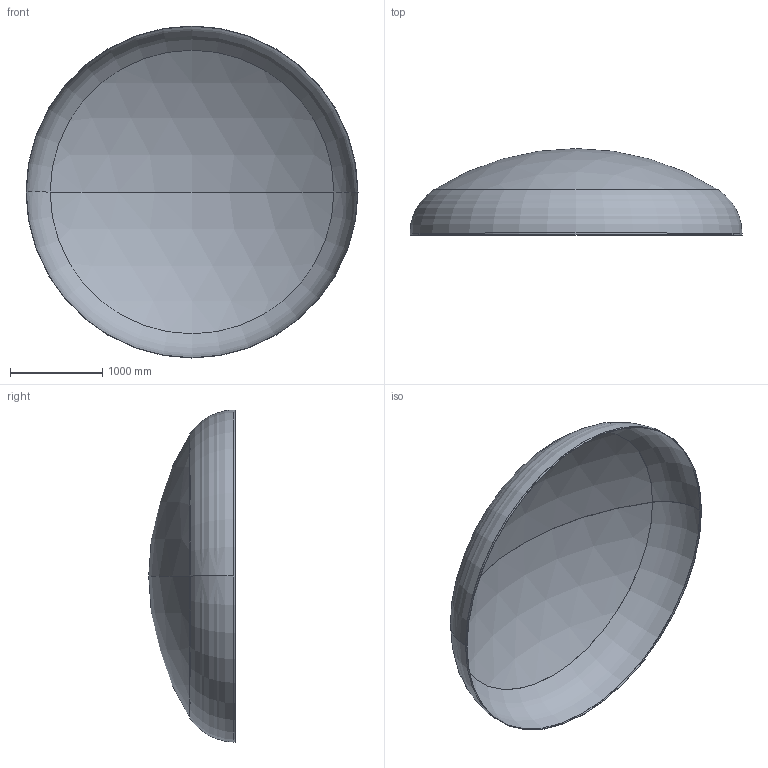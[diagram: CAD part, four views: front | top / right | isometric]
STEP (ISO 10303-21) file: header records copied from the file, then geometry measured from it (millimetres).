
FILE_DESCRIPTION (( 'STEP AP203' ), '1' );
FILE_NAME ('DIN 28013 Korbbogenform_-_Boden DIN 28013 - 3600 x 20 - I - s=3.step', '2016-07-01T19:59:49', ( '' ), ( '' ), 'SwSTEP 2.0', 'SolidWorks 2013', '' );
FILE_SCHEMA (( 'CONFIG_CONTROL_DESIGN' ));
Length unit declared in the file: millimetre
Products named in the file (1): DIN 28013 Korbbogenform_-_Boden DIN 28013 - 3600 x 20 - I - s=3
Bounding box: 3600 x 937.53 x 3600 mm (x, y, z)
Volume: 42937683.1 mm3; surface area: 28659030 mm2
Topology: 1 solids, 1 shells, 13 faces, 24 edges, 14 vertices
Faces by surface type: torus 4, cylinder 4, sphere 4, plane 1
Entity records: 407 total; most frequent: DIRECTION 72, CARTESIAN_POINT 52, ORIENTED_EDGE 48, AXIS2_PLACEMENT_3D 34, EDGE_CURVE 24, CIRCLE 20, EDGE_LOOP 14, VERTEX_POINT 14
